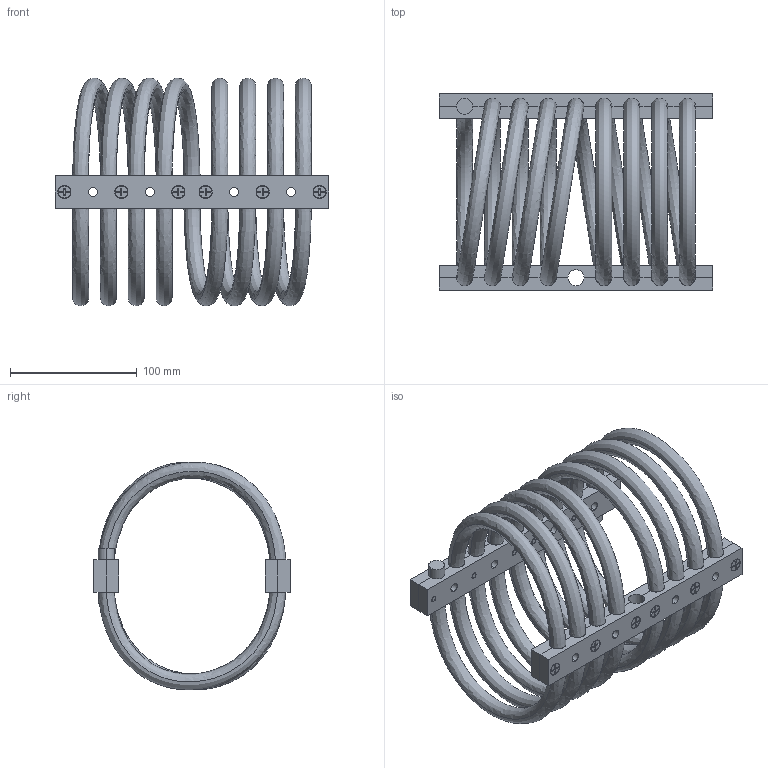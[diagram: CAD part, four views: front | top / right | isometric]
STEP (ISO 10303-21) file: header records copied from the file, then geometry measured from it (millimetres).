
FILE_DESCRIPTION (( 'STEP AP214' ), '1' );
FILE_NAME ('WR16-900-8DM.STEP', '2018-12-07T10:09:32', ( 'user' ), ( 'Microsoft' ), 'SwSTEP 2.0', 'SolidWorks 2016', '' );
FILE_SCHEMA (( 'AUTOMOTIVE_DESIGN' ));
Length unit declared in the file: millimetre
Products named in the file (1): WR16-900-8DM
Bounding box: 215.9 x 155 x 180.07 mm (x, y, z)
Volume: 681866.7 mm3; surface area: 247561 mm2
Topology: 34 solids, 34 shells, 664 faces, 1618 edges, 1050 vertices
Faces by surface type: plane 300, cylinder 258, cone 72, bspline 34
Entity records: 34771 total; most frequent: CARTESIAN_POINT 17911, DIRECTION 3244, ORIENTED_EDGE 3236, EDGE_CURVE 1618, AXIS2_PLACEMENT_3D 1159, VERTEX_POINT 1050, VECTOR 926, LINE 926
